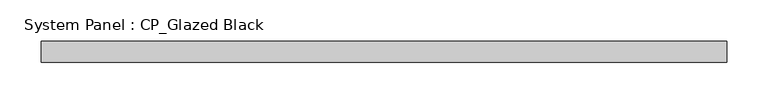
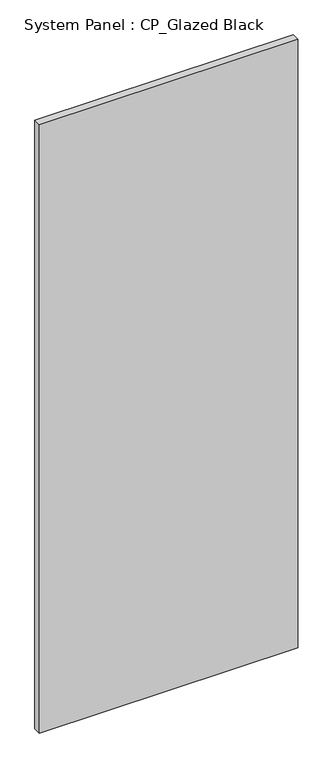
"""IFC4 building model written with IfcOpenShell, lengths in millimetres: plate geometry, System Panel : CP_Glazed Black."""

from ifc_helpers import new_model, si_unit, origin, origin_with_axes, place, context, project, spatial, polyline, outline, extrude, source, transform, mapped, element, save


def system_panel_cp_glazed_black_dcacf210(model_context):
    return source(origin(), model_context, "Body", "SweptSolid", [
        extrude(outline(polyline([(415.925, 19.05), (-415.925, 19.05), (-415.925, 44.45), (415.925, 44.45), (415.925, 19.05)])), origin_with_axes(), (0.0, 0.0, 1.0), 2070.1),
    ])


if __name__ == "__main__":
    model = new_model("IFC4")
    model_context = context("Model", 3, world=origin())
    ifc_project = project(units=[si_unit("LENGTHUNIT", "METRE", prefix="MILLI")], contexts=[model_context])
    site = spatial("IfcSite", under=ifc_project)
    building = spatial("IfcBuilding", under=site)
    placement = place(None, origin())
    system_panel_cp_glazed_black_shape = system_panel_cp_glazed_black_dcacf210(model_context)
    element("IfcPlate", 1, ObjectType="System Panel : CP_Glazed Black", at=placement, inside=building, context=model_context, shape_type="MappedRepresentation", body=[
        mapped(system_panel_cp_glazed_black_shape, transform((0.0, 0.0, 0.0), x_axis=(1.0, 0.0, 0.0), y_axis=(0.0, 1.0, 0.0), z_axis=(0.0, 0.0, 1.0))),
    ])
    save(model, "model.ifc")
